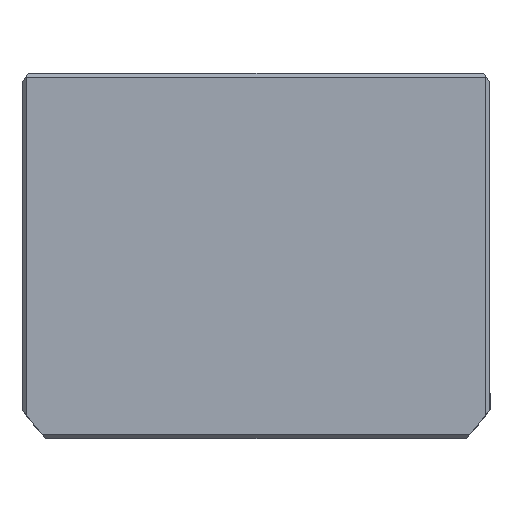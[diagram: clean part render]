
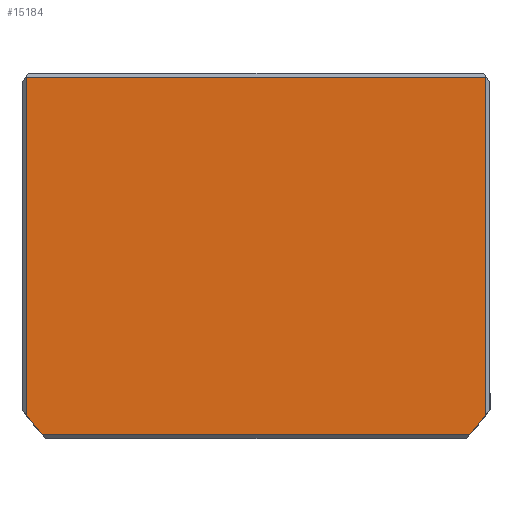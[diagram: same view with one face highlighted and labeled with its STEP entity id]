
A CAD part, top view. The second image highlights one B-rep face of the part: STEP entity #15184.
In plain terms, the highlighted planar face has unit normal (0, 0, 1) as drawn and (0, 0, -1) by its records, which use the part's own axes.
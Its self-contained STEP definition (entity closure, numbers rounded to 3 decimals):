
#613 = DIRECTION ( 'NONE',  ( 0., 0., 1. ) ) ;
#884 = EDGE_CURVE ( 'NONE', #9958, #2532, #12592, .T. ) ;
#909 = DIRECTION ( 'NONE',  ( 1., 0., 0. ) ) ;
#1284 = VERTEX_POINT ( 'NONE', #14830 ) ;
#1743 = DIRECTION ( 'NONE',  ( 0., 0., 1. ) ) ;
#1837 = VECTOR ( 'NONE', #15675, 1000. ) ;
#2133 = CARTESIAN_POINT ( 'NONE',  ( 0., 0., 0. ) ) ;
#2519 = ORIENTED_EDGE ( 'NONE', *, *, #16870, .T. ) ;
#2532 = VERTEX_POINT ( 'NONE', #8511 ) ;
#2650 = EDGE_CURVE ( 'NONE', #1284, #16133, #17148, .T. ) ;
#3204 = CARTESIAN_POINT ( 'NONE',  ( -56., 0., 0. ) ) ;
#3524 = LINE ( 'NONE', #3204, #11210 ) ;
#3589 = DIRECTION ( 'NONE',  ( 0., 0., 1. ) ) ;
#5010 = CARTESIAN_POINT ( 'NONE',  ( 56., 0., 0. ) ) ;
#5635 = CARTESIAN_POINT ( 'NONE',  ( 56., 38.661, 0. ) ) ;
#6044 = EDGE_LOOP ( 'NONE', ( #8898, #2519, #18297, #12041, #16717, #14251 ) ) ;
#6057 = CIRCLE ( 'NONE', #8694, 69.5 ) ;
#6869 = AXIS2_PLACEMENT_3D ( 'NONE', #2133, #3589, #13673 ) ;
#8054 = VERTEX_POINT ( 'NONE', #14415 ) ;
#8251 = CARTESIAN_POINT ( 'NONE',  ( 0., 43.5, 0. ) ) ;
#8511 = CARTESIAN_POINT ( 'NONE',  ( 52.098, 43.5, 0. ) ) ;
#8694 = AXIS2_PLACEMENT_3D ( 'NONE', #10454, #1743, #11874 ) ;
#8898 = ORIENTED_EDGE ( 'NONE', *, *, #11492, .F. ) ;
#8926 = VERTEX_POINT ( 'NONE', #5635 ) ;
#9031 = LINE ( 'NONE', #5010, #12369 ) ;
#9083 = DIRECTION ( 'NONE',  ( 0., -1., 0. ) ) ;
#9362 = CARTESIAN_POINT ( 'NONE',  ( 0., -2.5, 0. ) ) ;
#9958 = VERTEX_POINT ( 'NONE', #12949 ) ;
#10025 = CARTESIAN_POINT ( 'NONE',  ( 0., -43.5, 0. ) ) ;
#10454 = CARTESIAN_POINT ( 'NONE',  ( 0., -2.5, 0. ) ) ;
#10723 = CARTESIAN_POINT ( 'NONE',  ( -56., -43.5, 0. ) ) ;
#10782 = DIRECTION ( 'NONE',  ( 1., 0., 0. ) ) ;
#10814 = PLANE ( 'NONE',  #6869 ) ;
#11026 = EDGE_CURVE ( 'NONE', #16133, #8054, #3524, .T. ) ;
#11210 = VECTOR ( 'NONE', #17669, 1000. ) ;
#11492 = EDGE_CURVE ( 'NONE', #8926, #2532, #6057, .T. ) ;
#11874 = DIRECTION ( 'NONE',  ( 1., 0., 0. ) ) ;
#12041 = ORIENTED_EDGE ( 'NONE', *, *, #11026, .T. ) ;
#12303 = EDGE_CURVE ( 'NONE', #9958, #8054, #18154, .T. ) ;
#12369 = VECTOR ( 'NONE', #9083, 1000. ) ;
#12592 = LINE ( 'NONE', #8251, #18414 ) ;
#12949 = CARTESIAN_POINT ( 'NONE',  ( -52.098, 43.5, 0. ) ) ;
#13121 = AXIS2_PLACEMENT_3D ( 'NONE', #9362, #613, #10782 ) ;
#13673 = DIRECTION ( 'NONE',  ( 1., 0., 0. ) ) ;
#14251 = ORIENTED_EDGE ( 'NONE', *, *, #884, .T. ) ;
#14415 = CARTESIAN_POINT ( 'NONE',  ( -56., 38.661, 0. ) ) ;
#14830 = CARTESIAN_POINT ( 'NONE',  ( 56., -43.5, 0. ) ) ;
#15184 = ADVANCED_FACE ( 'NONE', ( #15275 ), #10814, .F. ) ;
#15275 = FACE_OUTER_BOUND ( 'NONE', #6044, .T. ) ;
#15675 = DIRECTION ( 'NONE',  ( -1., 0., 0. ) ) ;
#16133 = VERTEX_POINT ( 'NONE', #10723 ) ;
#16717 = ORIENTED_EDGE ( 'NONE', *, *, #12303, .F. ) ;
#16870 = EDGE_CURVE ( 'NONE', #8926, #1284, #9031, .T. ) ;
#17148 = LINE ( 'NONE', #10025, #1837 ) ;
#17669 = DIRECTION ( 'NONE',  ( 0., 1., 0. ) ) ;
#18154 = CIRCLE ( 'NONE', #13121, 69.5 ) ;
#18297 = ORIENTED_EDGE ( 'NONE', *, *, #2650, .T. ) ;
#18414 = VECTOR ( 'NONE', #909, 1000. ) ;
